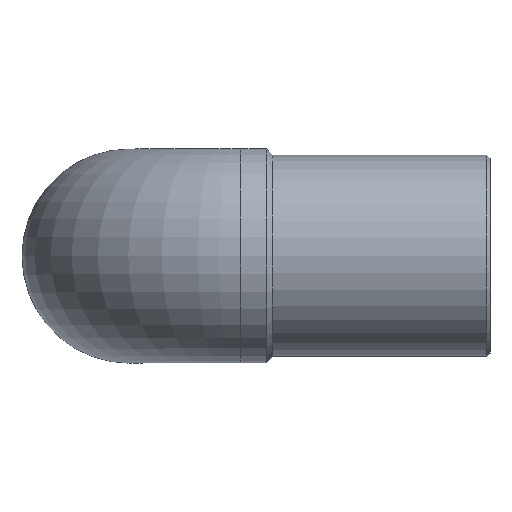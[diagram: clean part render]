
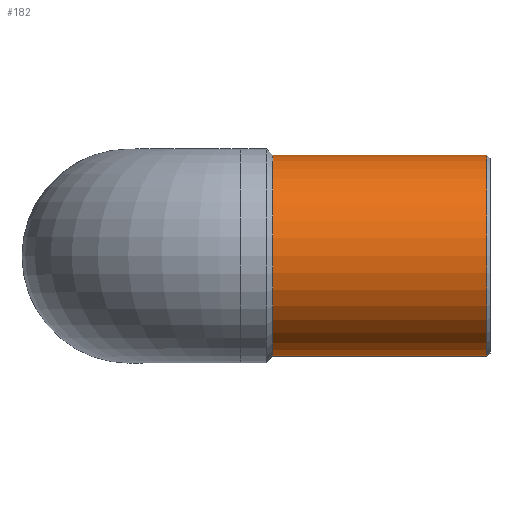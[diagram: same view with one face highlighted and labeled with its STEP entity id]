
A CAD part, top view. The second image highlights one B-rep face of the part: STEP entity #182.
In plain terms, the highlighted cylindrical face has radius 31.5 mm (diameter 63 mm), a full revolution.
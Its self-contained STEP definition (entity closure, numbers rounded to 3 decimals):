
#33=ORIENTED_EDGE('',*,*,#71,.T.);
#34=ORIENTED_EDGE('',*,*,#72,.F.);
#71=EDGE_CURVE('',#90,#90,#108,.T.);
#72=EDGE_CURVE('',#91,#91,#109,.T.);
#90=VERTEX_POINT('',#301);
#91=VERTEX_POINT('',#303);
#108=CIRCLE('',#210,31.5);
#109=CIRCLE('',#211,31.5);
#122=EDGE_LOOP('',(#33));
#123=EDGE_LOOP('',(#34));
#149=FACE_BOUND('',#122,.T.);
#150=FACE_BOUND('',#123,.T.);
#176=CYLINDRICAL_SURFACE('',#209,31.5);
#182=ADVANCED_FACE('',(#149,#150),#176,.T.);
#209=AXIS2_PLACEMENT_3D('',#299,#240,#241);
#210=AXIS2_PLACEMENT_3D('',#300,#242,#243);
#211=AXIS2_PLACEMENT_3D('',#302,#244,#245);
#240=DIRECTION('',(1.,0.,0.));
#241=DIRECTION('',(0.,0.,1.));
#242=DIRECTION('',(-1.,0.,0.));
#243=DIRECTION('',(0.,0.,1.));
#244=DIRECTION('',(-1.,0.,0.));
#245=DIRECTION('',(0.,0.,1.));
#299=CARTESIAN_POINT('',(167.,0.,113.));
#300=CARTESIAN_POINT('',(112.,0.,113.));
#301=CARTESIAN_POINT('',(112.,0.,144.5));
#302=CARTESIAN_POINT('',(45.,0.,113.));
#303=CARTESIAN_POINT('',(45.,0.,144.5));
